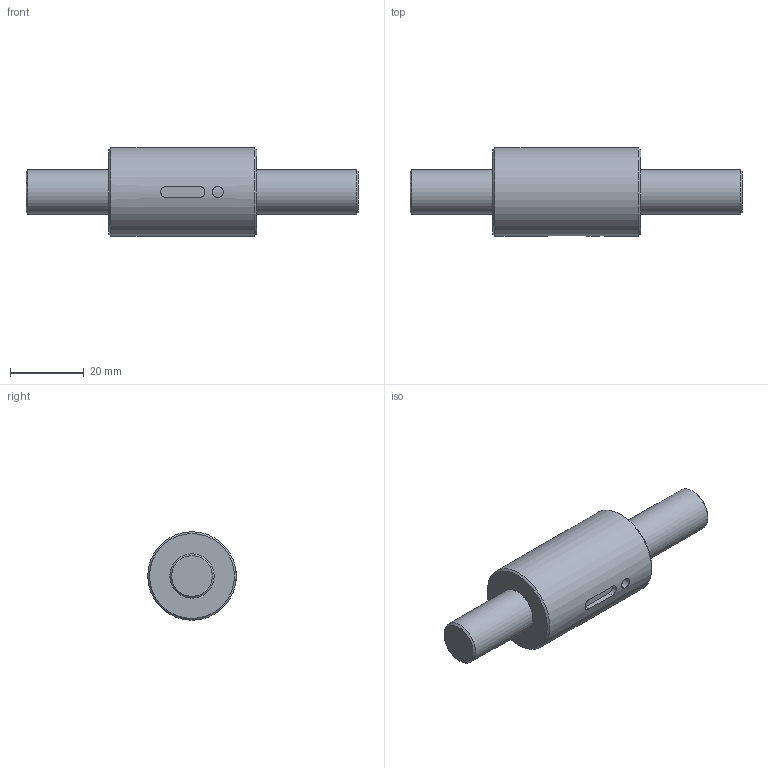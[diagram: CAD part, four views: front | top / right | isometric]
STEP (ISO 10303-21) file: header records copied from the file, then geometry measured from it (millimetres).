
FILE_DESCRIPTION (( 'STEP AP203' ), '1' );
FILE_NAME ('XCNH12100-1.8.STEP', '2023-08-17T01:21:13', ( '' ), ( '' ), 'SwSTEP 2.0', 'SolidWorks 2022', '' );
FILE_SCHEMA (( 'CONFIG_CONTROL_DESIGN' ));
Length unit declared in the file: millimetre
Products named in the file (1): XCNH12100-1.8
Bounding box: 90 x 24 x 24 mm (x, y, z)
Volume: 23630 mm3; surface area: 8835.7 mm2
Topology: 2 solids, 2 shells, 18 faces, 35 edges, 22 vertices
Faces by surface type: plane 7, cylinder 5, cone 4, bspline 2
Full cylindrical faces by diameter (mm): 12 x2, 24 x1
Entity records: 929 total; most frequent: CARTESIAN_POINT 509, DIRECTION 68, ORIENTED_EDGE 56, EDGE_LOOP 30, AXIS2_PLACEMENT_3D 29, EDGE_CURVE 28, VERTEX_POINT 22, FACE_OUTER_BOUND 21
